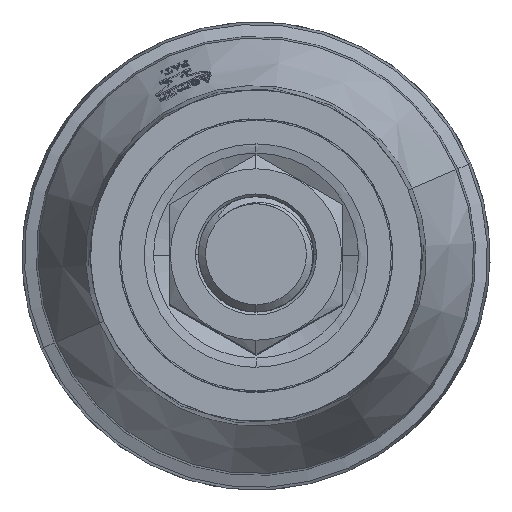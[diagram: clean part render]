
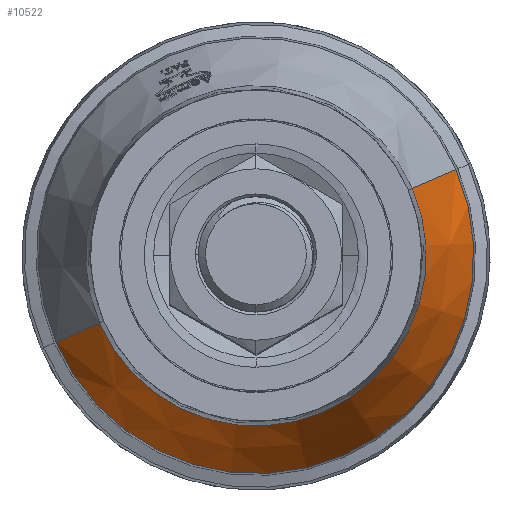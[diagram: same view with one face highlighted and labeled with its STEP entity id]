
A CAD part, top view. The second image highlights one B-rep face of the part: STEP entity #10522.
In plain terms, the highlighted conical face has half-angle 25 degrees and reference radius 23.629 mm.
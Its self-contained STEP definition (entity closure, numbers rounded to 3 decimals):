
#1085 = CARTESIAN_POINT ( 'NONE',  ( 30.24, 0., 9.324 ) ) ;
#1642 = ORIENTED_EDGE ( 'NONE', *, *, #27885, .F. ) ;
#2932 = CIRCLE ( 'NONE', #24781, 30.24 ) ;
#3321 = CARTESIAN_POINT ( 'NONE',  ( -30.24, 0., 9.324 ) ) ;
#4239 = LINE ( 'NONE', #9411, #16614 ) ;
#4397 = CIRCLE ( 'NONE', #25587, 23.629 ) ;
#7725 = VERTEX_POINT ( 'NONE', #1085 ) ;
#9411 = CARTESIAN_POINT ( 'NONE',  ( 26.934, 0., 16.412 ) ) ;
#10486 = EDGE_CURVE ( 'NONE', #18590, #17876, #4397, .T. ) ;
#10522 = ADVANCED_FACE ( 'NONE', ( #31563 ), #30728, .T. ) ;
#10778 = ORIENTED_EDGE ( 'NONE', *, *, #33799, .F. ) ;
#14681 = DIRECTION ( 'NONE',  ( 0., 0., 1. ) ) ;
#14714 = ORIENTED_EDGE ( 'NONE', *, *, #10486, .F. ) ;
#14871 = DIRECTION ( 'NONE',  ( 0., 0., -1. ) ) ;
#15978 = CARTESIAN_POINT ( 'NONE',  ( 23.629, 0., 23.5 ) ) ;
#16614 = VECTOR ( 'NONE', #17304, 1000. ) ;
#17304 = DIRECTION ( 'NONE',  ( -0.423, 0., 0.906 ) ) ;
#17313 = DIRECTION ( 'NONE',  ( 0., 0., -1. ) ) ;
#17347 = DIRECTION ( 'NONE',  ( -0.423, 0., -0.906 ) ) ;
#17876 = VERTEX_POINT ( 'NONE', #17883 ) ;
#17883 = CARTESIAN_POINT ( 'NONE',  ( -23.629, 0., 23.5 ) ) ;
#18590 = VERTEX_POINT ( 'NONE', #15978 ) ;
#19466 = EDGE_LOOP ( 'NONE', ( #28975, #1642, #10778, #14714 ) ) ;
#22634 = CARTESIAN_POINT ( 'NONE',  ( -26.934, 0., 16.412 ) ) ;
#24757 = EDGE_CURVE ( 'NONE', #7725, #18590, #4239, .T. ) ;
#24781 = AXIS2_PLACEMENT_3D ( 'NONE', #30612, #14871, #33271 ) ;
#25080 = LINE ( 'NONE', #22634, #27923 ) ;
#25155 = CARTESIAN_POINT ( 'NONE',  ( 0., 0., 23.5 ) ) ;
#25587 = AXIS2_PLACEMENT_3D ( 'NONE', #30420, #14681, #33067 ) ;
#27108 = VERTEX_POINT ( 'NONE', #3321 ) ;
#27381 = AXIS2_PLACEMENT_3D ( 'NONE', #25155, #17313, #27788 ) ;
#27788 = DIRECTION ( 'NONE',  ( -1., 0., 0. ) ) ;
#27885 = EDGE_CURVE ( 'NONE', #27108, #7725, #2932, .T. ) ;
#27923 = VECTOR ( 'NONE', #17347, 1000. ) ;
#28975 = ORIENTED_EDGE ( 'NONE', *, *, #24757, .F. ) ;
#30420 = CARTESIAN_POINT ( 'NONE',  ( 0., 0., 23.5 ) ) ;
#30612 = CARTESIAN_POINT ( 'NONE',  ( 0., 0., 9.324 ) ) ;
#30728 = CONICAL_SURFACE ( 'NONE', #27381, 23.629, 0.436 ) ;
#31563 = FACE_OUTER_BOUND ( 'NONE', #19466, .T. ) ;
#33067 = DIRECTION ( 'NONE',  ( -1., 0., 0. ) ) ;
#33271 = DIRECTION ( 'NONE',  ( -1., 0., 0. ) ) ;
#33799 = EDGE_CURVE ( 'NONE', #17876, #27108, #25080, .T. ) ;
